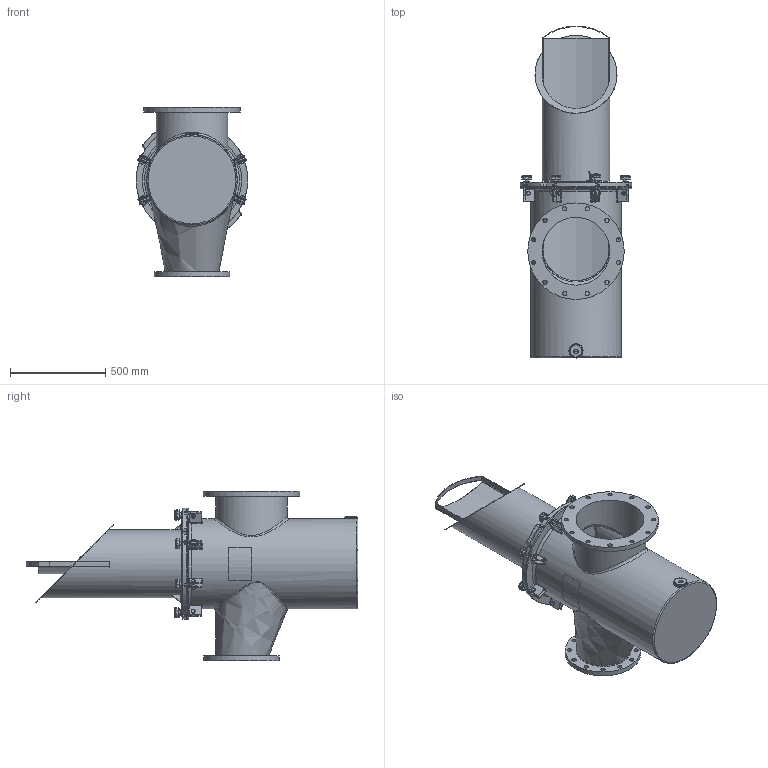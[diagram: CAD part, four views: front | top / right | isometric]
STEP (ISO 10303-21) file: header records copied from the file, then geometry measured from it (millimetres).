
FILE_DESCRIPTION(/* description */ ('350MM X 250MM FIBERGLASS STRAINER BODY'),/* implementation_level */ '2;1');
FILE_NAME(/* name */ 'C:\Users\r.kommineni.ext\Desktop\NB\CAD\Workspace\FG Reducing Strainer\Guardian FG Reducing H&L Strainer (Metric)_CLEARANCE VOLUME\STRAINER H&L 350MM X 250MM.stp',/* time_stamp */ '2017-06-09T13:32:45-04:00',/* author */ ('r.kommineni.ext'),/* organization */ (''),/* preprocessor_version */ 'ST-DEVELOPER v16.1',/* originating_system */ 'Autodesk Inventor 2016',/* authorisation */ '');
FILE_SCHEMA (('CONFIG_CONTROL_DESIGN'));
Length unit declared in the file: inch
Products named in the file (25): NBFGBODY14X10MM; 150NBCVR18R2; 150NBGSK18R1; Perforated Basket 18in; Bride (Ring) 18in; Baffle 18in; Handle 18in; Bottom Strainer 18in; BRACESTRCVR18_Welds; BRACE (BASE) FOR 18 BODY; BRACE (PROJ) FOR 18 BODY; Bumper; BRACESTRCVR18; Nut- 1_2  UNC; Bolt-1_2 x 1 1_2  UNC; EyeBolt; Washer; Knob M10; Securing Assembly For FG  with Brace; Securing Assembly For FG without Brace; Label for 18.625 inch (Right); Label for 18.625 inch (Left); NBBSK14T316_clearance; NBBSK14T316_clearance_1; STRAINER H&L 350MM X 250MM
Assembly tree (40 placements, depth 3):
  STRAINER H&L 350MM X 250MM
    NBFGBODY14X10MM
    150NBCVR18R2
    150NBGSK18R1
    NBBSK14T316_clearance_1
      Perforated Basket 18in
      Bride (Ring) 18in
      Baffle 18in
      Handle 18in
      Bottom Strainer 18in
      NBBSK14T316_clearance
    BRACESTRCVR18
      BRACESTRCVR18_Welds
      BRACE (BASE) FOR 18 BODY
      BRACE (PROJ) FOR 18 BODY
      Bumper  x6
    Securing Assembly For FG  with Brace  x2
      Nut- 1_2  UNC
      Bolt-1_2 x 1 1_2  UNC
      EyeBolt
      Washer
      Knob M10
    Securing Assembly For FG without Brace  x6
      Nut- 1_2  UNC
      Bolt-1_2 x 1 1_2  UNC
      EyeBolt
      Washer
      Knob M10
    Label for 18.625 inch (Right)
    Label for 18.625 inch (Left)
Bounding box: 584.2 x 1739.9 x 889 mm (x, y, z)
Volume: 29309644.8 mm3; surface area: 8498376.6 mm2
Topology: 67 solids, 70 shells, 1859 faces, 4263 edges, 2529 vertices
Faces by surface type: cylinder 685, plane 524, cone 184, torus 168, sphere 158, bspline 140
Full cylindrical faces by diameter (mm): 3.175 x11, 6.35 x2, 8.382 x8, 9.525 x16, 10.592 x8, 12.7 x8, 15.875 x16, 19 x16, 19.05 x8, 22.098 x24, 22.809 x1, 31.75 x8, 68.263 x1, 352.425 x2, 355.6 x3, 358.14 x1, 374.65 x1, 396.24 x1, 457.2 x3, 463.55 x1, 473.075 x1, 505.46 x1, 520.7 x1, 527.05 x1
Entity records: 39437 total; most frequent: CARTESIAN_POINT 15286, DIRECTION 4993, ORIENTED_EDGE 4539, EDGE_CURVE 2294, AXIS2_PLACEMENT_3D 2032, VERTEX_POINT 1445, EDGE_LOOP 1236, ADVANCED_FACE 1009
